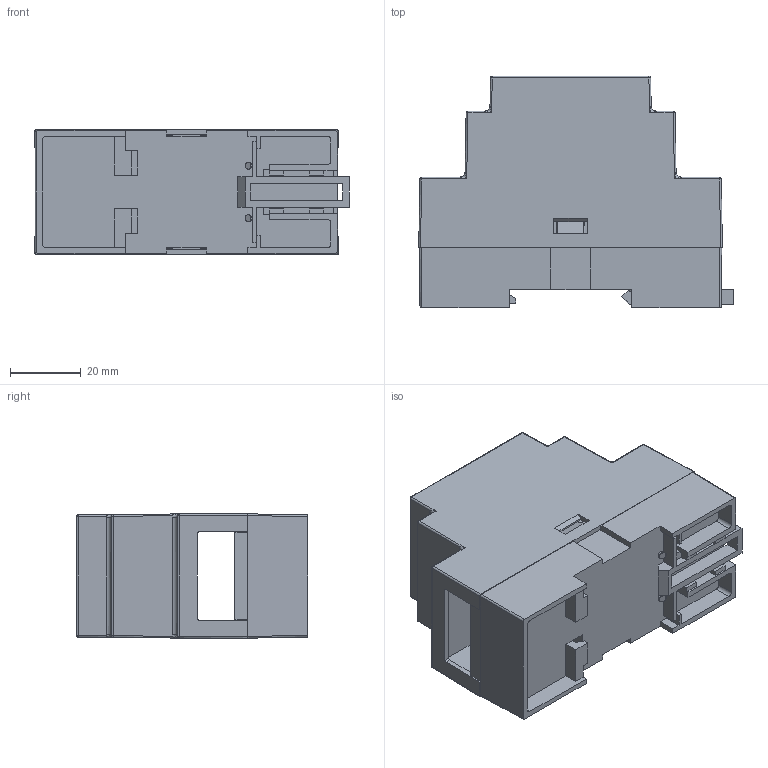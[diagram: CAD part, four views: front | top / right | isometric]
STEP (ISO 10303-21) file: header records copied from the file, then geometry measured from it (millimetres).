
FILE_DESCRIPTION (( 'STEP AP203' ), '1' );
FILE_NAME ('PT102-B.STEP', '2021-01-26T08:18:27', ( '' ), ( '' ), 'SwSTEP 2.0', 'SolidWorks 2020', '' );
FILE_SCHEMA (( 'CONFIG_CONTROL_DESIGN' ));
Length unit declared in the file: millimetre
Products named in the file (3): PT102-B
Assembly tree (2 placements, depth 2):
  PT102-B
    PT102-B
    PT102-B
Bounding box: 89.08 x 65.5 x 35.5 mm (x, y, z)
Volume: 52823.9 mm3; surface area: 40011.8 mm2
Topology: 3 solids, 3 shells, 478 faces, 1347 edges, 862 vertices
Faces by surface type: plane 362, cylinder 80, bspline 24, sphere 12
Entity records: 27596 total; most frequent: CARTESIAN_POINT 15370, ORIENTED_EDGE 2654, DIRECTION 2205, EDGE_CURVE 1327, LINE 1107, VECTOR 1107, VERTEX_POINT 862, AXIS2_PLACEMENT_3D 549
